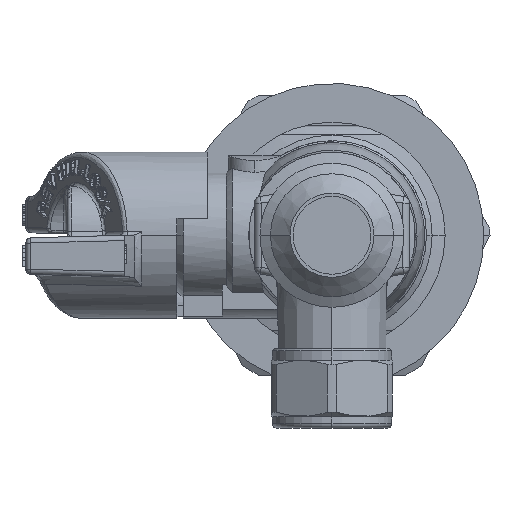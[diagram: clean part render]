
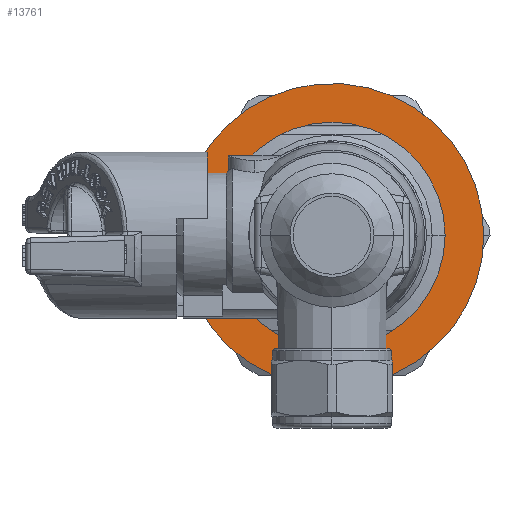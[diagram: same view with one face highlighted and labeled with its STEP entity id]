
A CAD part, left-side view. The second image highlights one B-rep face of the part: STEP entity #13761.
In plain terms, the highlighted planar face has unit normal (1, 0, 0).
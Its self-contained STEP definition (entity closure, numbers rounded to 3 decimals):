
#13642=CARTESIAN_POINT('',(18.9,0.,0.));
#13643=DIRECTION('',(1.,0.,0.));
#13644=DIRECTION('',(0.,1.,0.));
#13645=AXIS2_PLACEMENT_3D('',#13642,#13643,#13644);
#13647=CARTESIAN_POINT('',(18.9,0.,0.));
#13648=DIRECTION('',(1.,0.,0.));
#13649=DIRECTION('',(0.,-1.,0.));
#13650=AXIS2_PLACEMENT_3D('',#13647,#13648,#13649);
#13652=CARTESIAN_POINT('',(18.9,-20.077,0.));
#13653=CARTESIAN_POINT('',(18.9,-20.077,0.92));
#13654=CARTESIAN_POINT('',(18.9,-19.952,2.74));
#13655=CARTESIAN_POINT('',(18.9,-19.393,5.434));
#13656=CARTESIAN_POINT('',(18.9,-18.472,8.024));
#13657=CARTESIAN_POINT('',(18.9,-17.208,10.464));
#13658=CARTESIAN_POINT('',(18.9,-15.623,12.71));
#13659=CARTESIAN_POINT('',(18.9,-13.746,14.719));
#13660=CARTESIAN_POINT('',(18.9,-11.614,16.454));
#13661=CARTESIAN_POINT('',(18.9,-9.266,17.882));
#13662=CARTESIAN_POINT('',(18.9,-6.744,18.977));
#13663=CARTESIAN_POINT('',(18.9,-4.098,19.719));
#13664=CARTESIAN_POINT('',(18.9,-1.374,20.093));
#13665=CARTESIAN_POINT('',(18.9,1.374,20.093));
#13666=CARTESIAN_POINT('',(18.9,4.098,19.719));
#13667=CARTESIAN_POINT('',(18.9,6.744,18.977));
#13668=CARTESIAN_POINT('',(18.9,9.266,17.882));
#13669=CARTESIAN_POINT('',(18.9,11.614,16.454));
#13670=CARTESIAN_POINT('',(18.9,13.746,14.719));
#13671=CARTESIAN_POINT('',(18.9,15.623,12.71));
#13672=CARTESIAN_POINT('',(18.9,17.208,10.464));
#13673=CARTESIAN_POINT('',(18.9,18.472,8.024));
#13674=CARTESIAN_POINT('',(18.9,19.393,5.434));
#13675=CARTESIAN_POINT('',(18.9,19.952,2.74));
#13676=CARTESIAN_POINT('',(18.9,20.077,0.92));
#13677=CARTESIAN_POINT('',(18.9,20.077,0.));
#13679=CARTESIAN_POINT('',(18.9,20.077,0.));
#13680=CARTESIAN_POINT('',(18.9,20.077,-0.92));
#13681=CARTESIAN_POINT('',(18.9,19.952,-2.74));
#13682=CARTESIAN_POINT('',(18.9,19.393,-5.434));
#13683=CARTESIAN_POINT('',(18.9,18.472,-8.024));
#13684=CARTESIAN_POINT('',(18.9,17.208,-10.464));
#13685=CARTESIAN_POINT('',(18.9,15.623,-12.71));
#13686=CARTESIAN_POINT('',(18.9,13.746,-14.719));
#13687=CARTESIAN_POINT('',(18.9,11.614,-16.454));
#13688=CARTESIAN_POINT('',(18.9,9.266,-17.882));
#13689=CARTESIAN_POINT('',(18.9,6.744,-18.977));
#13690=CARTESIAN_POINT('',(18.9,4.098,-19.719));
#13691=CARTESIAN_POINT('',(18.9,1.374,-20.093));
#13692=CARTESIAN_POINT('',(18.9,-1.374,-20.093));
#13693=CARTESIAN_POINT('',(18.9,-4.098,-19.719));
#13694=CARTESIAN_POINT('',(18.9,-6.744,-18.977));
#13695=CARTESIAN_POINT('',(18.9,-9.266,-17.882));
#13696=CARTESIAN_POINT('',(18.9,-11.614,-16.454));
#13697=CARTESIAN_POINT('',(18.9,-13.746,-14.719));
#13698=CARTESIAN_POINT('',(18.9,-15.623,-12.71));
#13699=CARTESIAN_POINT('',(18.9,-17.208,-10.464));
#13700=CARTESIAN_POINT('',(18.9,-18.472,-8.024));
#13701=CARTESIAN_POINT('',(18.9,-19.393,-5.434));
#13702=CARTESIAN_POINT('',(18.9,-19.952,-2.74));
#13703=CARTESIAN_POINT('',(18.9,-20.077,-0.92));
#13704=CARTESIAN_POINT('',(18.9,-20.077,0.));
#13710=CARTESIAN_POINT('',(18.9,14.963,0.));
#13711=CARTESIAN_POINT('',(18.9,-14.963,0.));
#13712=VERTEX_POINT('',#13710);
#13713=VERTEX_POINT('',#13711);
#13714=VERTEX_POINT('',#13677);
#13715=VERTEX_POINT('',#13652);
#13746=CARTESIAN_POINT('',(18.9,0.,0.));
#13747=DIRECTION('',(1.,0.,0.));
#13748=DIRECTION('',(0.,1.,0.));
#13749=AXIS2_PLACEMENT_3D('',#13746,#13747,#13748);
#13750=PLANE('',#13749);
#13752=ORIENTED_EDGE('',*,*,#13751,.T.);
#13754=ORIENTED_EDGE('',*,*,#13753,.T.);
#13755=EDGE_LOOP('',(#13752,#13754));
#13756=FACE_OUTER_BOUND('',#13755,.F.);
#13757=ORIENTED_EDGE('',*,*,#13740,.T.);
#13758=ORIENTED_EDGE('',*,*,#13725,.T.);
#13759=EDGE_LOOP('',(#13757,#13758));
#13760=FACE_BOUND('',#13759,.F.);
#13761=ADVANCED_FACE('',(#13756,#13760),#13750,.T.);
#13646=CIRCLE('',#13645,14.963);
#13651=CIRCLE('',#13650,14.963);
#13678=B_SPLINE_CURVE_WITH_KNOTS('',3,(#13652,#13653,#13654,#13655,#13656,
#13657,#13658,#13659,#13660,#13661,#13662,#13663,#13664,#13665,#13666,#13667,
#13668,#13669,#13670,#13671,#13672,#13673,#13674,#13675,#13676,#13677),
.UNSPECIFIED.,.F.,.F.,(4,1,1,1,1,1,1,1,1,1,1,1,1,1,1,1,1,1,1,1,1,1,1,4),(0.,
0.043,0.087,0.13,0.174,
0.217,0.261,0.304,0.348,
0.391,0.435,0.478,0.522,
0.565,0.609,0.652,0.696,
0.739,0.783,0.826,0.87,
0.913,0.957,1.),.UNSPECIFIED.);
#13705=B_SPLINE_CURVE_WITH_KNOTS('',3,(#13679,#13680,#13681,#13682,#13683,
#13684,#13685,#13686,#13687,#13688,#13689,#13690,#13691,#13692,#13693,#13694,
#13695,#13696,#13697,#13698,#13699,#13700,#13701,#13702,#13703,#13704),
.UNSPECIFIED.,.F.,.F.,(4,1,1,1,1,1,1,1,1,1,1,1,1,1,1,1,1,1,1,1,1,1,1,4),(0.,
0.043,0.087,0.13,0.174,
0.217,0.261,0.304,0.348,
0.391,0.435,0.478,0.522,
0.565,0.609,0.652,0.696,
0.739,0.783,0.826,0.87,
0.913,0.957,1.),.UNSPECIFIED.);
#13725=EDGE_CURVE('',#13713,#13712,#13651,.T.);
#13740=EDGE_CURVE('',#13712,#13713,#13646,.T.);
#13751=EDGE_CURVE('',#13715,#13714,#13678,.T.);
#13753=EDGE_CURVE('',#13714,#13715,#13705,.T.);
